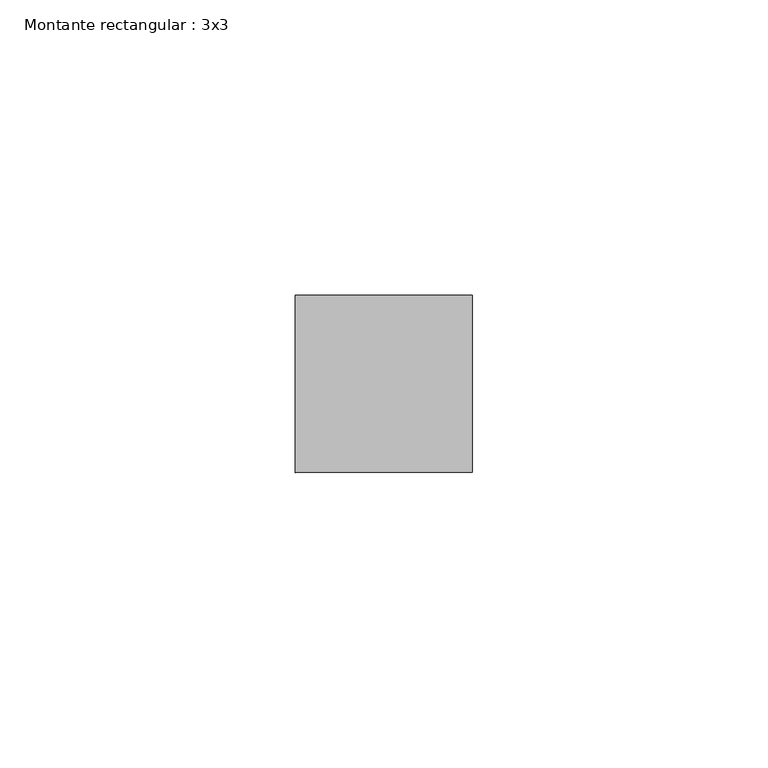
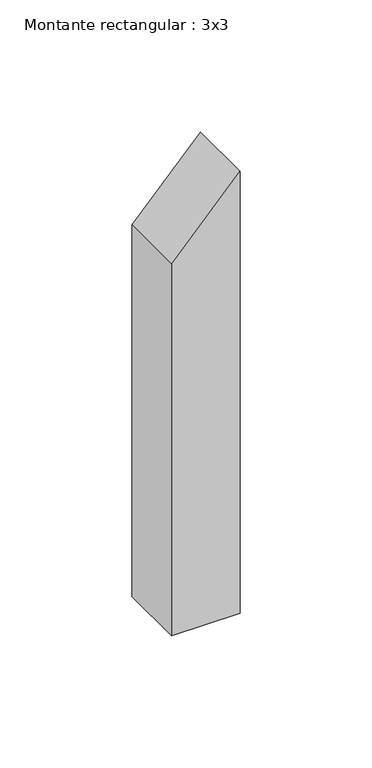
"""IFC4 building model written with IfcOpenShell, lengths in millimetres: member geometry, Montante rectangular : 3x3."""

import ifcopenshell
import ifcopenshell.guid

model = None  # the IFC model being written
_history = None  # IfcOwnerHistory: only IFC2X3 demands one
_inside = {}  # id of a spatial element -> (the spatial element, [elements in it])
_under = {}  # id of a project, library or spatial element -> (it, [spatial elements below it])
_declared = {}  # id of a project -> (the project, [libraries it declares])
_typed = {}  # id of a type object -> (the type object, [elements of that type])
_made_of = {}  # id of a material, layer set ... -> (it, [elements and type objects made of it])


def new_model(schema):
    """Start an empty IFC model of exactly this schema.

    Asked for "IFC4X3", IfcOpenShell would pick the latest addendum, in which some entities
    have other attributes; the version numbers below select the first issue.
    IFC2X3 requires an IfcOwnerHistory on every rooted entity: one is made here for all.
    """
    global model, _history
    if schema == "IFC4X3":
        model = ifcopenshell.file(schema_version=(4, 3, 0, 0))
    else:
        model = ifcopenshell.file(schema=schema)
    _inside.clear()
    _under.clear()
    _declared.clear()
    _typed.clear()
    _made_of.clear()
    _history = None
    if model.schema == "IFC2X3":
        org = make("IfcOrganization", Name="unknown")
        user = make(
            "IfcPersonAndOrganization",
            ThePerson=make("IfcPerson", FamilyName="unknown"),
            TheOrganization=org,
        )
        app = make(
            "IfcApplication",
            ApplicationDeveloper=org,
            Version="unknown",
            ApplicationFullName="unknown",
            ApplicationIdentifier="unknown",
        )
        _history = make(
            "IfcOwnerHistory",
            OwningUser=user,
            OwningApplication=app,
            ChangeAction="ADDED",
            CreationDate=0,
        )
    return model


def make(cls, **values):
    """One entity of the class cls with the attributes given. An attribute that is None is left unset."""
    return model.create_entity(
        cls, **{name: value for name, value in values.items() if value is not None}
    )


def rooted(cls, **values):
    """An entity with a GlobalId (a new one), such as an element, a storey or a relation."""
    return make(cls, GlobalId=ifcopenshell.guid.new(), OwnerHistory=_history, **values)


def si_unit(unit_type, name, prefix=None):
    """IfcSIUnit, for example si_unit("LENGTHUNIT", "METRE", prefix="MILLI")."""
    return make("IfcSIUnit", UnitType=unit_type, Prefix=prefix, Name=name)


def assignment(units):
    """IfcUnitAssignment: the units of a project."""
    return None if units is None else make("IfcUnitAssignment", Units=units)


def point(xyz):
    """IfcCartesianPoint."""
    return None if xyz is None else make("IfcCartesianPoint", Coordinates=xyz)


def direction(xyz):
    """IfcDirection."""
    return None if xyz is None else make("IfcDirection", DirectionRatios=xyz)


def frame(location, z_axis=None, x_axis=None):
    """IfcAxis2Placement3D, a coordinate frame: its origin and axes. An axis left out is left unset."""
    return make(
        "IfcAxis2Placement3D",
        Location=point(location),
        Axis=direction(z_axis),
        RefDirection=direction(x_axis),
    )


def origin():
    """The frame at (0, 0, 0) with its axes left unset."""
    return frame((0.0, 0.0, 0.0))


def place(relative_to, where):
    """IfcLocalPlacement: puts the frame where relative to a parent placement (None: the world)."""
    return make(
        "IfcLocalPlacement", PlacementRelTo=relative_to, RelativePlacement=where
    )


def context(
    kind, dimensions, precision=None, world=None, true_north=None, identifier=None
):
    """IfcGeometricRepresentationContext, for example the 3D "Model" context."""
    return make(
        "IfcGeometricRepresentationContext",
        ContextIdentifier=identifier,
        ContextType=kind,
        CoordinateSpaceDimension=dimensions,
        Precision=precision,
        WorldCoordinateSystem=world,
        TrueNorth=true_north,
    )


def project(units=None, contexts=None):
    """IfcProject with its units and contexts."""
    return rooted(
        "IfcProject",
        Name="project",
        RepresentationContexts=contexts,
        UnitsInContext=assignment(units),
    )


def spatial(cls, under=None, at=None, **own):
    """A site, building, storey or space (cls), placed at a placement, below another one or the project."""
    s = rooted(cls, ObjectPlacement=at, **own)
    if under is not None:
        _under.setdefault(under.id(), (under, []))[1].append(s)
    return s


def polyline(points):
    """IfcPolyline through the points."""
    return make("IfcPolyline", Points=[point(p) for p in points])


def outline(outer, holes=None, kind="AREA"):
    """IfcArbitraryClosedProfileDef: a profile drawn as a closed curve; with holes, ...WithVoids."""
    if holes is None:
        return make("IfcArbitraryClosedProfileDef", ProfileType=kind, OuterCurve=outer)
    return make(
        "IfcArbitraryProfileDefWithVoids",
        ProfileType=kind,
        OuterCurve=outer,
        InnerCurves=holes,
    )


def extrude(swept, where, along, depth):
    """IfcExtrudedAreaSolid: the profile swept, set in the frame where, extruded along a direction by depth."""
    return make(
        "IfcExtrudedAreaSolid",
        SweptArea=swept,
        Position=where,
        ExtrudedDirection=direction(along),
        Depth=depth,
    )


def shape(context_of_items, identifier, shape_type, items):
    """IfcShapeRepresentation: the items that make up one representation, for example the "Body"."""
    return make(
        "IfcShapeRepresentation",
        ContextOfItems=context_of_items,
        RepresentationIdentifier=identifier,
        RepresentationType=shape_type,
        Items=items,
    )


def source(mapping_origin, context_of_items, identifier, shape_type, items):
    """IfcRepresentationMap: a shape defined once, which mapped items show again and again."""
    return make(
        "IfcRepresentationMap",
        MappingOrigin=mapping_origin,
        MappedRepresentation=shape(context_of_items, identifier, shape_type, items),
    )


def transform(
    local_origin,
    x_axis=None,
    y_axis=None,
    z_axis=None,
    scale=None,
    scale2=None,
    scale3=None,
    uniform=True,
):
    """IfcCartesianTransformationOperator3D, or its non-uniform kind. x_axis, y_axis, z_axis: its Axis1, 2, 3."""
    if uniform:
        return make(
            "IfcCartesianTransformationOperator3D",
            Axis1=direction(x_axis),
            Axis2=direction(y_axis),
            LocalOrigin=point(local_origin),
            Scale=scale,
            Axis3=direction(z_axis),
        )
    return make(
        "IfcCartesianTransformationOperator3DnonUniform",
        Axis1=direction(x_axis),
        Axis2=direction(y_axis),
        LocalOrigin=point(local_origin),
        Scale=scale,
        Axis3=direction(z_axis),
        Scale2=scale2,
        Scale3=scale3,
    )


def mapped(mapping_source, mapping_target):
    """IfcMappedItem: shows the shape of a source again, moved by a transform."""
    return make(
        "IfcMappedItem", MappingSource=mapping_source, MappingTarget=mapping_target
    )


def made_of(thing, what):
    """Note that an element or type object is made of a material, layer set ...; save() writes the relation."""
    if what is not None:
        _made_of.setdefault(what.id(), (what, []))[1].append(thing)
    return thing


def element(
    cls,
    number,
    at=None,
    inside=None,
    cuts=None,
    type_object=None,
    material=None,
    context=None,
    identifier="Body",
    shape_type=None,
    held_by="IfcProductDefinitionShape",
    body=None,
    shapes=None,
    **own,
):
    """One element of the class cls, such as IfcWall. Its Tag is "e" and its number.

    at: its placement. inside: the storey or other place that contains it. cuts: it is an
    opening in that element (IfcRelVoidsElement). A single representation is given by context,
    identifier, shape_type and body (its items); several are given by shapes. held_by: the class
    of the entity that holds the representations. save() writes the other relations.
    """
    e = rooted(cls, Tag="e%d" % number, ObjectPlacement=at, **own)
    if body is not None:
        shapes = [shape(context, identifier, shape_type, body)]
    if shapes is not None:
        e.Representation = make(held_by, Representations=shapes)
    if inside is not None:
        _inside.setdefault(inside.id(), (inside, []))[1].append(e)
    if cuts is not None:
        rooted(
            "IfcRelVoidsElement", RelatingBuildingElement=cuts, RelatedOpeningElement=e
        )
    if type_object is not None:
        _typed.setdefault(type_object.id(), (type_object, []))[1].append(e)
    return made_of(e, material)


def aggregate(whole, parts):
    """IfcRelAggregates: a whole, such as a stair, and the parts it consists of."""
    return rooted("IfcRelAggregates", RelatingObject=whole, RelatedObjects=parts)


def save(model, path):
    """Write the relations noted so far, then the file.

    IfcRelAggregates (storeys below a building ...), IfcRelContainedInSpatialStructure (elements
    in a storey), IfcRelDefinesByType, IfcRelAssociatesMaterial and IfcRelDeclares: one each for
    every whole, place, type object, material and project.
    """
    for whole, parts in _under.values():
        aggregate(whole, parts)
    for where, things in _inside.values():
        rooted(
            "IfcRelContainedInSpatialStructure",
            RelatedElements=things,
            RelatingStructure=where,
        )
    for kind, things in _typed.values():
        rooted("IfcRelDefinesByType", RelatedObjects=things, RelatingType=kind)
    for what, things in _made_of.values():
        rooted("IfcRelAssociatesMaterial", RelatedObjects=things, RelatingMaterial=what)
    for by, libraries in _declared.values():
        rooted("IfcRelDeclares", RelatingContext=by, RelatedDefinitions=libraries)
    model.write(path)


def montante_rectangular_3x3_ade2416c(model_context):
    return source(origin(), model_context, "Body", "SweptSolid", [
        extrude(outline(polyline([(0.0, 0.0), (-32.2722053, -30.0), (-204.0670737, -30.0), (-204.0670737, 0.0), (0.0, 0.0)])), frame((0.0, -15.0, 0.0), z_axis=(0.0, 1.0, 0.0), x_axis=(0.0, 0.0, 1.0)), (0.0, 0.0, 1.0), 30.0),
    ])


if __name__ == "__main__":
    model = new_model("IFC4")
    model_context = context("Model", 3, world=origin())
    ifc_project = project(units=[si_unit("LENGTHUNIT", "METRE", prefix="MILLI")], contexts=[model_context])
    site = spatial("IfcSite", under=ifc_project)
    building = spatial("IfcBuilding", under=site)
    placement = place(None, origin())
    montante_rectangular_3x3_shape = montante_rectangular_3x3_ade2416c(model_context)
    element("IfcMember", 1, ObjectType="Montante rectangular : 3x3", at=placement, inside=building, context=model_context, shape_type="MappedRepresentation", body=[
        mapped(montante_rectangular_3x3_shape, transform((0.0, 0.0, 0.0), x_axis=(1.0, 0.0, 0.0), y_axis=(0.0, 1.0, 0.0), z_axis=(0.0, 0.0, 1.0))),
    ])
    save(model, "model.ifc")
